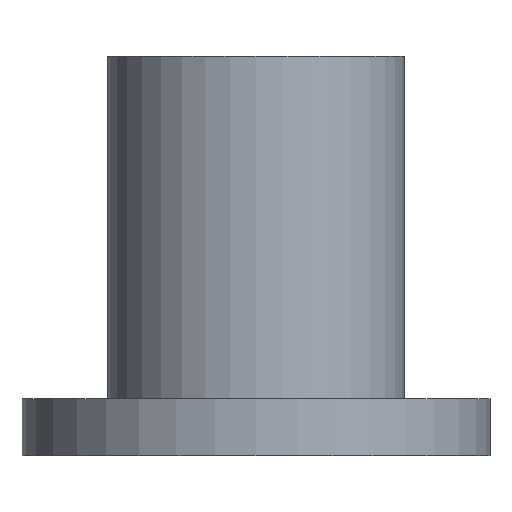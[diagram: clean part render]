
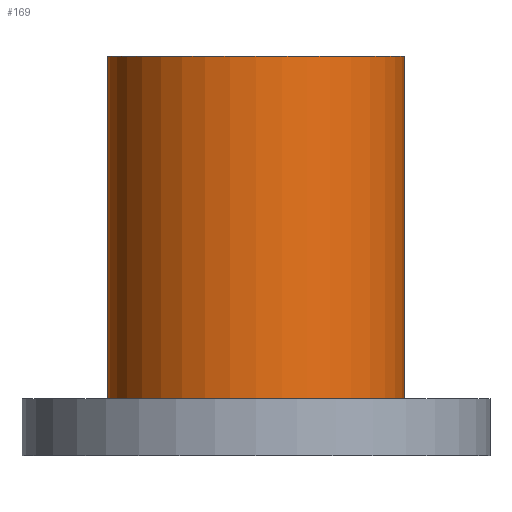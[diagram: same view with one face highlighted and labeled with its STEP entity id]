
A CAD part, front view. The second image highlights one B-rep face of the part: STEP entity #169.
In plain terms, the highlighted cylindrical face has radius 26 mm (diameter 52 mm), a partial arc.
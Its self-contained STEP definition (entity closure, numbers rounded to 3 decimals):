
#128=CARTESIAN_POINT('',(0.0,-0.1,0.0));
#129=DIRECTION('',(0.0,0.0,1.0));
#130=DIRECTION('',(-1.0,0.0,0.0));
#131=AXIS2_PLACEMENT_3D('',#128,#129,#130);
#132=CYLINDRICAL_SURFACE('',#131,26.0);
#133=CARTESIAN_POINT('',(-26.0,-0.1,10.0));
#134=VERTEX_POINT('',#133);
#135=CARTESIAN_POINT('',(-26.0,-0.1,70.0));
#136=VERTEX_POINT('',#135);
#137=CARTESIAN_POINT('',(-26.0,-0.1,10.0));
#138=DIRECTION('',(0.0,0.0,1.0));
#139=VECTOR('',#138,60.0);
#140=LINE('',#137,#139);
#141=EDGE_CURVE('',#134,#136,#140,.T.);
#142=ORIENTED_EDGE('',*,*,#141,.F.);
#143=CARTESIAN_POINT('',(26.0,-0.1,10.0));
#144=VERTEX_POINT('',#143);
#145=CARTESIAN_POINT('',(0.0,-0.1,10.0));
#146=DIRECTION('',(0.0,0.0,-1.0));
#147=DIRECTION('',(-1.0,0.0,0.0));
#148=AXIS2_PLACEMENT_3D('',#145,#146,#147);
#149=CIRCLE('',#148,26.0);
#150=EDGE_CURVE('',#144,#134,#149,.T.);
#151=ORIENTED_EDGE('',*,*,#150,.F.);
#152=CARTESIAN_POINT('',(26.0,-0.1,70.0));
#153=VERTEX_POINT('',#152);
#154=CARTESIAN_POINT('',(26.0,-0.1,70.0));
#155=DIRECTION('',(0.0,0.0,-1.0));
#156=VECTOR('',#155,60.0);
#157=LINE('',#154,#156);
#158=EDGE_CURVE('',#153,#144,#157,.T.);
#159=ORIENTED_EDGE('',*,*,#158,.F.);
#160=CARTESIAN_POINT('',(0.0,-0.1,70.0));
#161=DIRECTION('',(0.0,0.0,-1.0));
#162=DIRECTION('',(-1.0,0.0,0.0));
#163=AXIS2_PLACEMENT_3D('',#160,#161,#162);
#164=CIRCLE('',#163,26.0);
#165=EDGE_CURVE('',#153,#136,#164,.T.);
#166=ORIENTED_EDGE('',*,*,#165,.T.);
#167=EDGE_LOOP('',(#142,#151,#159,#166));
#168=FACE_OUTER_BOUND('',#167,.T.);
#169=ADVANCED_FACE('',(#168),#132,.T.);
